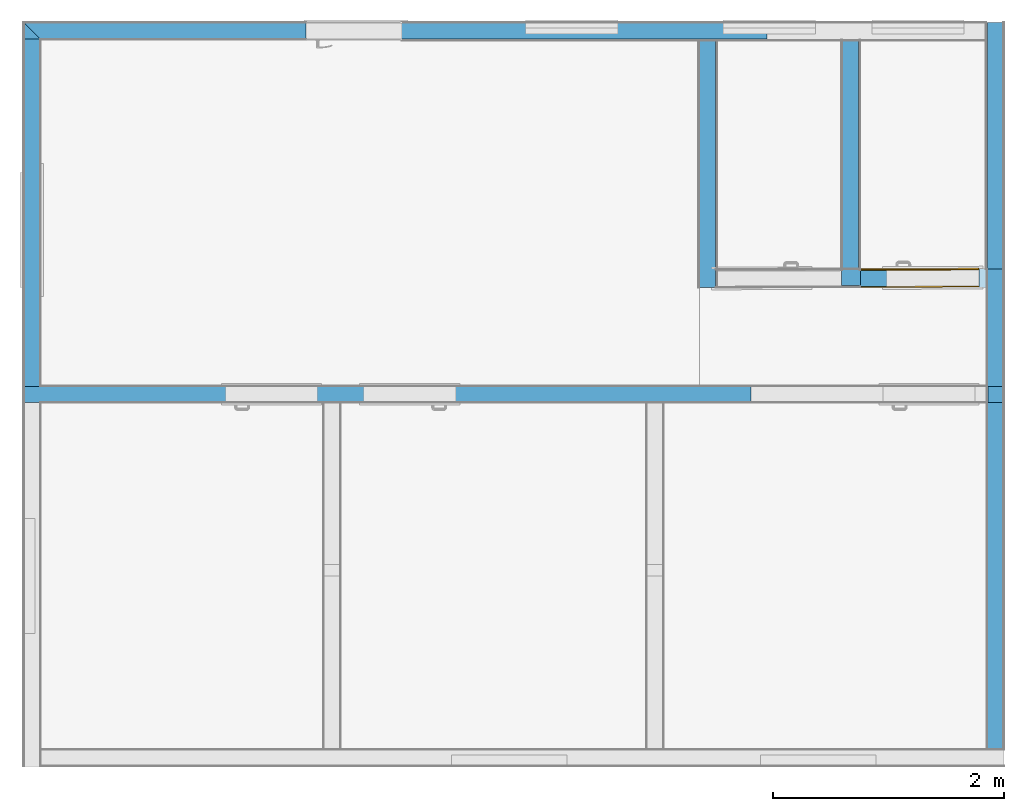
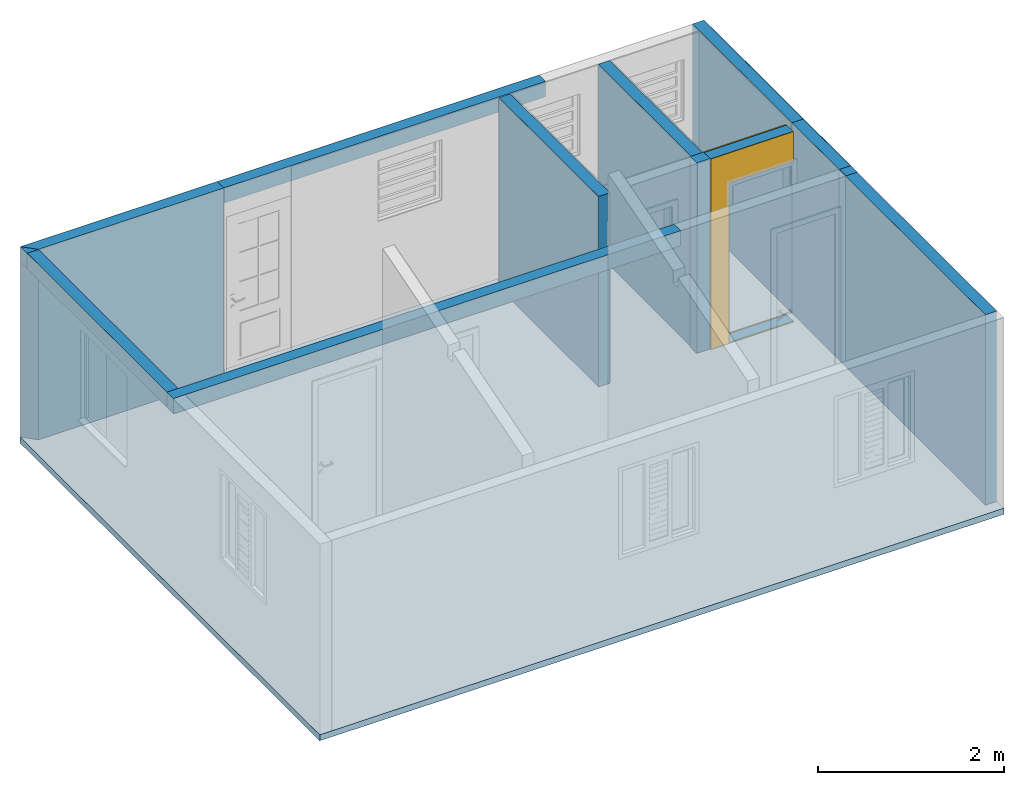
# One storey, part 1 of 11: 8 building element parts, 4 beams, 3 coverings, 1 slab, 1 opening, 8 elements without a shape of their own.
"""IFC2X3 building model written with IfcOpenShell, lengths in millimetres."""

from ifc_helpers import new_model, entity, si_unit, converted_unit, derived_unit, money_unit, direction, frame, frame_2d, origin_with_axes, origin_2d_with_axis, place, context, subcontext, project, spatial, polyline, rectangle, outline, extrude, boolean, faceted_brep, material, layer, layer_set, layer_usage, type_object, element, aggregate, save


model = new_model("IFC2X3")

# Units and contexts
model_context = context("Model", 3, precision=0.01, world=origin_with_axes(), true_north=direction((0.0, 1.0)))
body_context = subcontext(model_context, "Body", "Model", "MODEL_VIEW")
ifc_project = project(units=[si_unit("LENGTHUNIT", "METRE", prefix="MILLI"), si_unit("AREAUNIT", "SQUARE_METRE"), si_unit("VOLUMEUNIT", "CUBIC_METRE"), converted_unit("PLANEANGLEUNIT", "DEGREE", entity("IfcPlaneAngleMeasure", 0.0174532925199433), si_unit("PLANEANGLEUNIT", "RADIAN"), dimensions=[0, 0, 0, 0, 0, 0, 0]), money_unit("USD"), converted_unit("TIMEUNIT", "Year", entity("IfcTimeMeasure", 31557600.0), si_unit("TIMEUNIT", "SECOND"), dimensions=[0, 0, 1, 0, 0, 0, 0]), si_unit("MASSUNIT", "GRAM", prefix="KILO"), si_unit("THERMODYNAMICTEMPERATUREUNIT", "DEGREE_CELSIUS"), si_unit("LUMINOUSINTENSITYUNIT", "LUMEN"), si_unit("ENERGYUNIT", "JOULE", prefix="MEGA"), derived_unit("THERMALCONDUCTANCEUNIT", [(si_unit("POWERUNIT", "WATT"), 1), (si_unit("LENGTHUNIT", "METRE"), -1), (si_unit("THERMODYNAMICTEMPERATUREUNIT", "KELVIN"), -1)]), derived_unit("SPECIFICHEATCAPACITYUNIT", [(si_unit("ENERGYUNIT", "JOULE"), 1), (si_unit("MASSUNIT", "GRAM", prefix="KILO"), -1), (si_unit("THERMODYNAMICTEMPERATUREUNIT", "KELVIN"), -1)]), derived_unit("MASSDENSITYUNIT", [(si_unit("MASSUNIT", "GRAM", prefix="KILO"), 1), (si_unit("VOLUMEUNIT", "CUBIC_METRE"), -1)])], contexts=[model_context])

# Site, building, storey
site_placement = place(None, origin_with_axes())
site = spatial("IfcSite", under=ifc_project, at=site_placement, Name="Local", CompositionType="ELEMENT")
building_placement = place(site_placement, origin_with_axes())
building = spatial("IfcBuilding", under=site, at=building_placement, Name="Construção", CompositionType="ELEMENT")
storey_placement = place(building_placement, origin_with_axes())
storey = spatial("IfcBuildingStorey", under=building, at=storey_placement, Name="Pavimento Térreo", CompositionType="ELEMENT", Elevation=0.0)

# Beams
ifc_material_1 = material(Name="Concreto - Estrutural")
beam_type = type_object("IfcBeamType", Name="Concreto - Estrutural 140 x 200", PredefinedType="BEAM")
beam_1_placement = place(storey_placement, frame((5.000042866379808, 6375.000000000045, 2500.0), z_axis=(0.0, 0.0, 1.0), x_axis=(0.0, -1.0, 0.0)))
element("IfcBeam", 1, at=beam_1_placement, inside=storey, type_object=beam_type, material=ifc_material_1, Name="V01", ObjectType="BEAM", context=body_context, shape_type="SweptSolid", body=[
    extrude(rectangle(XDim=200.0, YDim=140.0, at=frame_2d((-100.0, 0.0), x_axis=(1.0, 0.0))), frame((0.0, 0.0, 0.0), z_axis=(0.0, 1.0, 0.0), x_axis=(0.0, 0.0, 1.0)), (0.0, 0.0, 1.0), 6439.999957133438),
])
beam_2_placement = place(storey_placement, frame((8430.0, 6305.000000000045, 2500.0), z_axis=(0.0, 0.0, 1.0), x_axis=(-1.0, 0.0, 0.0)))
element("IfcBeam", 2, at=beam_2_placement, inside=storey, type_object=beam_type, material=ifc_material_1, Name="V02", ObjectType="BEAM", context=body_context, shape_type="SweptSolid", body=[
    extrude(rectangle(XDim=200.0, YDim=140.0, at=frame_2d((-100.0, 0.0), x_axis=(1.0, 0.0))), frame((0.0, 0.0, 0.0), z_axis=(0.0, 1.0, 0.0), x_axis=(0.0, 0.0, 1.0)), (0.0, 0.0, 1.0), 3149.999999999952),
])
beam_3_placement = place(storey_placement, frame((6304.999999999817, 3225.000000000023, 2500.0), z_axis=(0.0, 0.0, 1.0), x_axis=(0.0, 1.0, 0.0)))
element("IfcBeam", 3, at=beam_3_placement, inside=storey, type_object=beam_type, material=ifc_material_1, Name="V03", ObjectType="BEAM", context=body_context, shape_type="SweptSolid", body=[
    extrude(rectangle(XDim=200.0, YDim=140.0, at=frame_2d((-100.0, 0.0), x_axis=(1.0, 0.0))), frame((0.0, 0.0, 0.0), z_axis=(0.0, 1.0, 0.0), x_axis=(0.0, 0.0, 1.0)), (0.0, 0.0, 1.0), 6299.999957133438),
])
beam_4_placement = place(storey_placement, frame((74.99999999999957, 3295.000000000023, 2500.0), z_axis=(0.0, 0.0, 1.0), x_axis=(1.0, 0.0, 0.0)))
element("IfcBeam", 4, at=beam_4_placement, inside=storey, type_object=beam_type, material=ifc_material_1, Name="V04", ObjectType="BEAM", context=body_context, shape_type="SweptSolid", body=[
    extrude(rectangle(XDim=200.0, YDim=140.0, at=frame_2d((-100.0, 0.0), x_axis=(1.0, 0.0))), frame((0.0, 0.0, 0.0), z_axis=(0.0, 1.0, 0.0), x_axis=(0.0, 0.0, 1.0)), (0.0, 0.0, 1.0), 3010.000000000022),
])

# Slab
ifc_material_2 = material(Name="Concreto Armado - Estrutural")
ifc_layer = layer(ifc_material_2, 80.0, ventilated="UNKNOWN")
ifc_layer_set = layer_set([ifc_layer], Name="Concreto Armado - Estrutural 80")
ifc_layer_usage = layer_usage(ifc_layer_set, "AXIS3", "NEGATIVE", 80.0)
slab_type = type_object("IfcSlabType", Name="Concreto Armado - Estrutural 80", PredefinedType="NOTDEFINED")
slab_placement = place(storey_placement, origin_with_axes())
element("IfcSlab", 5, at=slab_placement, inside=storey, type_object=slab_type, material=ifc_layer_usage, Name="L01", PredefinedType="NOTDEFINED", context=body_context, shape_type="SweptSolid", body=[
    extrude(outline(polyline([(0.0, 0.0), (8500.0, 0.0), (8500.0, 6450.000000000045), (0.0, 6450.000000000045), (0.0, 0.0)])), frame((0.0, 0.0, -80.0), z_axis=(0.0, 0.0, 1.0), x_axis=(1.0, 0.0, 0.0)), (0.0, 0.0, 1.0), 80.0),
])

# Wall, opening, coverings
wall_type_1 = type_object("IfcWallType", Name="Alvenaria 140, Rebocada + Azulejo 160", PredefinedType="NOTDEFINED")
wall_1_placement = place(storey_placement, frame((7255.443836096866, 4153.482583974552, 0.0), z_axis=(0.0, 0.0, 1.0), x_axis=(0.9999961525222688, 0.002773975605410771, 0.0)))
wall_1 = element("IfcWall", 6, at=wall_1_placement, inside=storey, type_object=wall_type_1, Name="Parede-08 - Trecho 3")
opening_placement = place(wall_1_placement, frame((626.9383836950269, 0.0, 10.0), z_axis=(0.0, 0.0, 1.0), x_axis=(1.0, 0.0, 0.0)))
element("IfcOpeningElement", 7, at=opening_placement, cuts=wall_1, Name="P02", context=body_context, shape_type="SweptSolid", body=[
    extrude(rectangle(XDim=799.9999999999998, YDim=2100.0, at=origin_2d_with_axis()), frame((0.0, 160.0000000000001, 1050.0), z_axis=(0.0, -1.0, 0.0), x_axis=(1.0, 0.0, 0.0)), (0.0, 0.0, 1.0), 480.0000000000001),
    extrude(rectangle(XDim=870.0000000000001, YDim=2135.0, at=origin_2d_with_axis()), frame((0.0, 160.0000000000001, 1067.5), z_axis=(0.0, -1.0, 0.0), x_axis=(1.0, 0.0, 0.0)), (0.0, 0.0, -1.0), 160.0),
    extrude(rectangle(XDim=870.0000000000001, YDim=2135.0, at=origin_2d_with_axis()), frame((0.0, 0.0, 1067.5), z_axis=(0.0, 1.0, 0.0), x_axis=(1.0, 0.0, 0.0)), (0.0, 0.0, -1.0), 160.0),
])
ifc_material_3 = material(Name="Reboco DEF")
covering_1_placement = place(wall_1_placement, origin_with_axes())
covering_1 = element("IfcCovering", 8, at=covering_1_placement, material=ifc_material_3, Name="Reboco DEF", PredefinedType="CLADDING", context=body_context, shape_type="SweptSolid", body=[
    extrude(outline(polyline([(0.0, 0.0), (1026.938383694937, 0.0), (1026.938383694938, 4.999999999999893), (0.0, 4.999999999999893), (0.0, 0.0)])), origin_with_axes(), (0.0, 0.0, 1.0), 2500.0),
])
ifc_material_4 = material(Name="Azulejo DEF")
covering_2_placement = place(wall_1_placement, origin_with_axes())
covering_2 = element("IfcCovering", 9, at=covering_2_placement, material=ifc_material_4, Name="Azulejo DEF", PredefinedType="CLADDING", context=body_context, shape_type="SweptSolid", body=[
    extrude(outline(polyline([(0.0, 155.0000000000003), (1026.938383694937, 155.0000000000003), (1026.938383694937, 160.0000000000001), (0.0, 160.0000000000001), (0.0, 155.0000000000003)])), origin_with_axes(), (0.0, 0.0, 1.0), 2500.0),
])
ifc_material_5 = material(Name="Argamassa Colante DEF")
covering_3_placement = place(wall_1_placement, origin_with_axes())
covering_3 = element("IfcCovering", 10, at=covering_3_placement, material=ifc_material_5, Name="Argamassa Colante DEF", PredefinedType="CLADDING", context=body_context, shape_type="SweptSolid", body=[
    extrude(outline(polyline([(0.0, 145.0000000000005), (1026.938383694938, 145.0000000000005), (1026.938383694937, 155.0000000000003), (0.0, 155.0000000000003), (0.0, 145.0000000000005)])), origin_with_axes(), (0.0, 0.0, 1.0), 2500.0),
])

# Wall, building element part
wall_type_2 = type_object("IfcWallType", Name="Alvenaria 140, Rebocada 2 Faces 150", PredefinedType="NOTDEFINED")
wall_2_placement = place(storey_placement, frame((8500.0, 149.9999999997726, 0.0), z_axis=(0.0, 0.0, 1.0), x_axis=(0.0, 1.0, 0.0)))
wall_2 = element("IfcWall", 11, at=wall_2_placement, inside=storey, type_object=wall_type_2, Name="Parede-03 - Trecho 3")
ifc_material_6 = material(Name="Bloco de Concreto - Estrutural DEF")
building_element_part_1_placement = place(wall_2_placement, origin_with_axes())
building_element_part_1 = element("IfcBuildingElementPart", 12, at=building_element_part_1_placement, material=ifc_material_6, Name="Bloco de Concreto - Estrutural DEF", context=body_context, shape_type="CSG", body=[
    boolean("DIFFERENCE", boolean("DIFFERENCE", extrude(outline(polyline([(0.0, 5.000000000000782), (3145.00000000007, 5.000000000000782), (3145.00000000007, 144.9999999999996), (0.0, 144.9999999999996), (0.0, 5.000000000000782)])), origin_with_axes(), (0.0, 0.0, 1.0), 2500.0), faceted_brep([(3005.00000000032, 0.0, 2500.0), (3005.00000000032, 0.0, 2300.0), (3145.000000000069, 0.0, 2300.0), (3145.00000000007, 0.0, 2500.0), (3005.00000000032, 5.000000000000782, 2500.0), (3005.00000000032, 5.000000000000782, 2300.0), (3145.00000000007, 5.000000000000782, 2300.0), (3145.00000000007, 5.000000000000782, 2500.0)], [[[0, 1, 2, 3]], [[1, 0, 4, 5]], [[6, 2, 1, 5]], [[2, 6, 7, 3]], [[4, 0, 3, 7]], [[5, 4, 7, 6]]])), faceted_brep([(3005.00000000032, 5.000000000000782, 2500.0), (3005.00000000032, 5.000000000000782, 2300.0), (3145.00000000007, 5.000000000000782, 2300.0), (3145.00000000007, 5.000000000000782, 2500.0), (3005.00000000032, 140.0000000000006, 2500.0), (3005.00000000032, 140.0000000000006, 2300.0), (3145.00000000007, 140.0000000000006, 2300.0), (3145.00000000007, 140.0000000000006, 2500.0)], [[[0, 1, 2, 3]], [[0, 4, 5, 1]], [[6, 2, 1, 5]], [[6, 7, 3, 2]], [[4, 0, 3, 7]], [[4, 7, 6, 5]]])),
])
aggregate(wall_2, [building_element_part_1])

wall_type_3 = type_object("IfcWallType", Name="Alvenaria 140, Azulejo + Azulejo 165", PredefinedType="NOTDEFINED")
wall_3_placement = place(storey_placement, frame((7090.0, 6299.999999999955, 0.0), z_axis=(0.0, 0.0, 1.0), x_axis=(0.0, -1.0, 0.0)))
wall_3 = element("IfcWall", 13, at=wall_3_placement, inside=storey, type_object=wall_type_3, Name="Parede-07")
building_element_part_2_placement = place(wall_3_placement, origin_with_axes())
building_element_part_2 = element("IfcBuildingElementPart", 14, at=building_element_part_2_placement, material=ifc_material_6, Name="Bloco de Concreto - Estrutural DEF", context=body_context, shape_type="SweptSolid", body=[
    extrude(outline(polyline([(0.0, 9.999999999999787), (2000.0, 9.999999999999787), (2000.0, 150.0000000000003), (0.0, 150.0000000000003), (0.0, 9.999999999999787)])), origin_with_axes(), (0.0, 0.0, 1.0), 2500.0),
])
aggregate(wall_3, [building_element_part_2])

wall_4_placement = place(storey_placement, frame((2450.000000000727, 6450.000000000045, 0.0), z_axis=(0.0, 0.0, 1.0), x_axis=(-1.0, 0.0, 0.0)))
wall_4 = element("IfcWall", 15, at=wall_4_placement, inside=storey, type_object=wall_type_2, Name="Parede-04 - Trecho 1")
building_element_part_3_placement = place(wall_4_placement, origin_with_axes())
building_element_part_3 = element("IfcBuildingElementPart", 16, at=building_element_part_3_placement, material=ifc_material_6, Name="Bloco de Concreto - Estrutural DEF", context=body_context, shape_type="SweptSolid", body=[
    extrude(outline(polyline([(0.0, 4.999999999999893), (2445.000000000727, 4.999999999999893), (2305.000000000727, 145.0000000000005), (0.0, 145.0000000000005), (0.0, 4.999999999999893)])), origin_with_axes(), (0.0, 0.0, 1.0), 2500.0),
])
aggregate(wall_4, [building_element_part_3])

wall_5_placement = place(storey_placement, frame((8500.0, 4309.999999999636, 0.0), z_axis=(0.0, 0.0, 1.0), x_axis=(0.0, 1.0, 0.0)))
wall_5 = element("IfcWall", 17, at=wall_5_placement, inside=storey, type_object=wall_type_1, Name="Parede-03 - Trecho 1")
building_element_part_4_placement = place(wall_5_placement, origin_with_axes())
building_element_part_4 = element("IfcBuildingElementPart", 18, at=building_element_part_4_placement, material=ifc_material_6, Name="Bloco de Concreto - Estrutural DEF", context=body_context, shape_type="SweptSolid", body=[
    extrude(outline(polyline([(0.0, 5.000000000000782), (2140.000000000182, 5.000000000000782), (2140.000000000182, 144.9999999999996), (0.0, 144.9999999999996), (0.0, 5.000000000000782)])), origin_with_axes(), (0.0, 0.0, 1.0), 2500.0),
])
aggregate(wall_5, [building_element_part_4])

wall_6_placement = place(storey_placement, frame((8500.0, 3294.999999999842, 0.0), z_axis=(0.0, 0.0, 1.0), x_axis=(0.0, 1.0, 0.0)))
wall_6 = element("IfcWall", 19, at=wall_6_placement, inside=storey, type_object=wall_type_2, Name="Parede-03 - Trecho 2")
building_element_part_5_placement = place(wall_6_placement, origin_with_axes())
building_element_part_5 = element("IfcBuildingElementPart", 20, at=building_element_part_5_placement, material=ifc_material_6, Name="Bloco de Concreto - Estrutural DEF", context=body_context, shape_type="SweptSolid", body=[
    extrude(outline(polyline([(0.0, 5.000000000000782), (1014.999999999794, 5.000000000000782), (1014.999999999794, 144.9999999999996), (0.0, 144.9999999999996), (0.0, 5.000000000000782)])), origin_with_axes(), (0.0, 0.0, 1.0), 2500.0),
])
aggregate(wall_6, [building_element_part_5])

wall_type_4 = type_object("IfcWallType", Name="Alvenaria 140, Azulejo + Rebocada 160", PredefinedType="NOTDEFINED")
wall_7_placement = place(storey_placement, frame((7090.0, 4153.023645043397, 0.0), z_axis=(0.0, 0.0, 1.0), x_axis=(0.9999961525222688, 0.002773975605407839, 0.0)))
wall_7 = element("IfcWall", 21, at=wall_7_placement, inside=storey, type_object=wall_type_4, Name="Parede-08 - Trecho 2")
building_element_part_6_placement = place(wall_7_placement, origin_with_axes())
building_element_part_6 = element("IfcBuildingElementPart", 22, at=building_element_part_6_placement, material=ifc_material_6, Name="Bloco de Concreto - Estrutural DEF", context=body_context, shape_type="SweptSolid", body=[
    extrude(outline(polyline([(0.0, 15.00000000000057), (165.4444726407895, 15.00000000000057), (165.4444726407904, 155.0000000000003), (0.0, 155.0000000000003), (0.0, 15.00000000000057)])), origin_with_axes(), (0.0, 0.0, 1.0), 2500.0),
])
aggregate(wall_7, [building_element_part_6])

# Building element part
building_element_part_7_placement = place(wall_1_placement, origin_with_axes())
building_element_part_7 = element("IfcBuildingElementPart", 23, at=building_element_part_7_placement, material=ifc_material_6, Name="Bloco de Concreto - Estrutural DEF", context=body_context, shape_type="SweptSolid", body=[
    extrude(outline(polyline([(0.0, 4.999999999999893), (1026.938383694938, 4.999999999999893), (1026.938383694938, 145.0000000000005), (0.0, 145.0000000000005), (0.0, 4.999999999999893)])), origin_with_axes(), (0.0, 0.0, 1.0), 2500.0),
])

aggregate(wall_1, [building_element_part_7, covering_1, covering_2, covering_3])

# Wall, building element part
wall_8_placement = place(storey_placement, frame((5849.622577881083, 6294.999508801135, 0.0), z_axis=(0.0, 0.0, 1.0), x_axis=(0.0001759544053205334, -0.9999999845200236, 0.0)))
wall_8 = element("IfcWall", 24, at=wall_8_placement, inside=storey, type_object=wall_type_3, Name="Parede-21")
building_element_part_8_placement = place(wall_8_placement, origin_with_axes())
building_element_part_8 = element("IfcBuildingElementPart", 25, at=building_element_part_8_placement, material=ifc_material_6, Name="Bloco de Concreto - Estrutural DEF", context=body_context, shape_type="SweptSolid", body=[
    extrude(outline(polyline([(0.0, 9.999999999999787), (2144.999542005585, 9.999999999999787), (2144.999542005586, 150.0000000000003), (0.0, 150.0000000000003), (0.0, 9.999999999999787)])), origin_with_axes(), (0.0, 0.0, 1.0), 2500.0),
])
aggregate(wall_8, [building_element_part_8])

save(model, "model.ifc")
